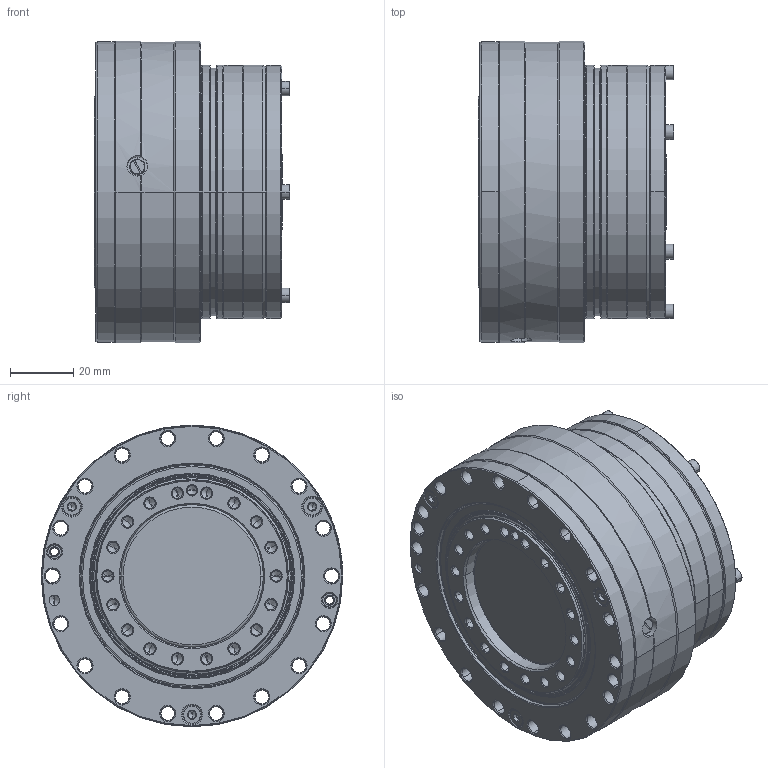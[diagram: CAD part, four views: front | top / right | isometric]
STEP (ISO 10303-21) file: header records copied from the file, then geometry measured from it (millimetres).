
FILE_DESCRIPTION((''),'2;1');
FILE_NAME('095_000G_P14_0820_ASM_ASM','2020-12-15T',('ceslar'),(''),'PRO/ENGINEER BY PARAMETRIC TECHNOLOGY CORPORATION, 2016240','PRO/ENGINEER BY PARAMETRIC TECHNOLOGY CORPORATION, 2016240','');
FILE_SCHEMA(('AUTOMOTIVE_DESIGN { 1 0 10303 214 1 1 1 1 }'));
Length unit declared in the file: millimetre
Products named in the file (18): 095_011G_0683_AF0_3; 095_007G_0683_AF0_3; 095_003G_0683_AF0_5; 095_001G_P14_0683_AF0_3; SKR_DIN912-M3X8-129_3; SKR_DIN912-M3X8-129_AF0_3; SKR_DIN912-M3X8-129_AF1_3; GUF_DIN3761AS-60_5X70X4-FPM_AF0; ZATKA-GA20X4_AF0_5; ZATKA-GA45X5_AF0_3; ZATKA-FESTO-B-M3-S9_3; 095_009G_PA78_1; GUF_DIN3761A-024X036X6-FPM_1; SKR_DIN912-M2_5X8-129_1; O_KRUZOK-068X1_5-NBR70_AF1_1; ZATKA-FESTO-B-M5-B-A3L_1; 095_000G_P14_0820_ASM_46_ASM; 095_000G_P14_0820_ASM_ASM
Assembly tree (22 placements, depth 3):
  095_000G_P14_0820_ASM_ASM
    095_000G_P14_0820_ASM_46_ASM
      095_011G_0683_AF0_3
      095_007G_0683_AF0_3
      095_003G_0683_AF0_5
      095_001G_P14_0683_AF0_3
      SKR_DIN912-M3X8-129_3
      SKR_DIN912-M3X8-129_AF0_3
      SKR_DIN912-M3X8-129_AF1_3
      GUF_DIN3761AS-60_5X70X4-FPM_AF0
      ZATKA-GA20X4_AF0_5
      ZATKA-GA45X5_AF0_3
      ZATKA-FESTO-B-M3-S9_3
      095_009G_PA78_1
      GUF_DIN3761A-024X036X6-FPM_1
      SKR_DIN912-M2_5X8-129_1  x6
      O_KRUZOK-068X1_5-NBR70_AF1_1
      ZATKA-FESTO-B-M5-B-A3L_1
Bounding box: 61.5 x 95 x 95 mm (x, y, z)
Volume: 135432.5 mm3; surface area: 89747.4 mm2
Topology: 21 solids, 21 shells, 1171 faces, 3191 edges, 2068 vertices
Faces by surface type: cone 525, cylinder 318, plane 223, torus 101, revolution 4
Entity records: 44349 total; most frequent: DIRECTION 6722, CARTESIAN_POINT 6377, ORIENTED_EDGE 5582, AXIS2_PLACEMENT_3D 2930, EDGE_CURVE 2791, VERTEX_POINT 1893, CIRCLE 1867, PRESENTATION_STYLE_ASSIGNMENT 1527
